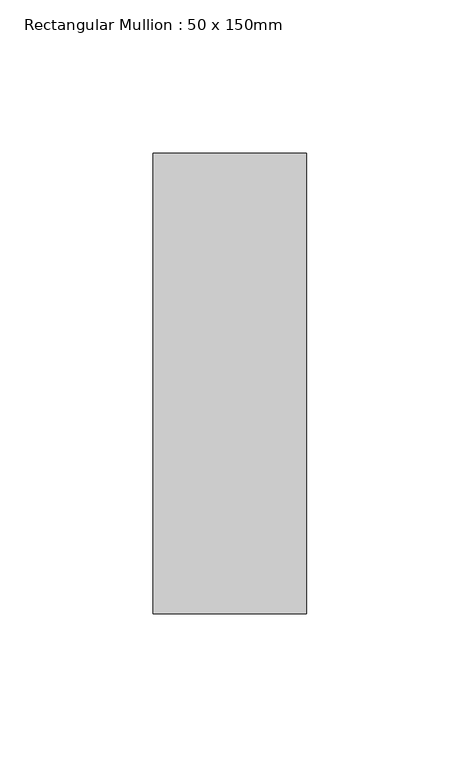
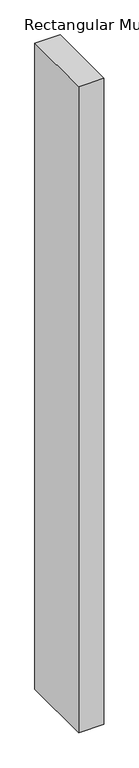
"""IFC4 building model written with IfcOpenShell, lengths in millimetres: member geometry, Rectangular Mullion : 50 x 150mm."""

from ifc_helpers import new_model, si_unit, frame, origin, place, context, project, spatial, polyline, outline, extrude, source, transform, mapped, element, save


def rectangular_mullion_50_x_150mm_4186046b(model_context):
    return source(origin(), model_context, "Body", "SweptSolid", [
        extrude(outline(polyline([(0.0, 75.0), (0.0, -75.0), (-50.0, -75.0), (-50.0, 75.0), (0.0, 75.0)])), frame((0.0, 0.0, -1353.3202354), z_axis=(0.0, 0.0, 1.0), x_axis=(1.0, 0.0, 0.0)), (0.0, 0.0, 1.0), 1353.3202354),
    ])


if __name__ == "__main__":
    model = new_model("IFC4")
    model_context = context("Model", 3, world=origin())
    ifc_project = project(units=[si_unit("LENGTHUNIT", "METRE", prefix="MILLI")], contexts=[model_context])
    site = spatial("IfcSite", under=ifc_project)
    building = spatial("IfcBuilding", under=site)
    placement = place(None, origin())
    rectangular_mullion_50_x_150mm_shape = rectangular_mullion_50_x_150mm_4186046b(model_context)
    element("IfcMember", 1, ObjectType="Rectangular Mullion : 50 x 150mm", at=placement, inside=building, context=model_context, shape_type="MappedRepresentation", body=[
        mapped(rectangular_mullion_50_x_150mm_shape, transform((0.0, 0.0, 0.0), x_axis=(1.0, 0.0, 0.0), y_axis=(0.0, 1.0, 0.0), z_axis=(0.0, 0.0, 1.0))),
    ])
    save(model, "model.ifc")
